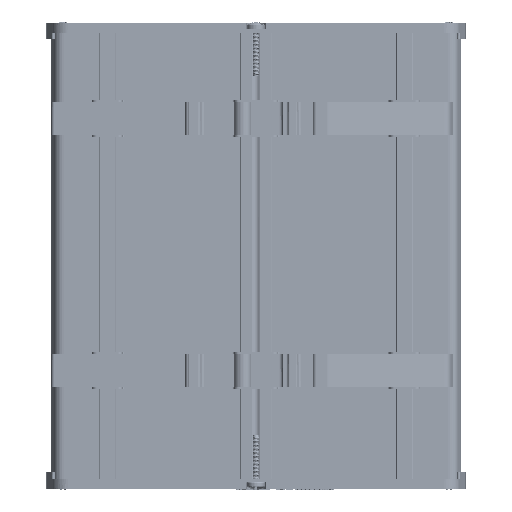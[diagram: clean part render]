
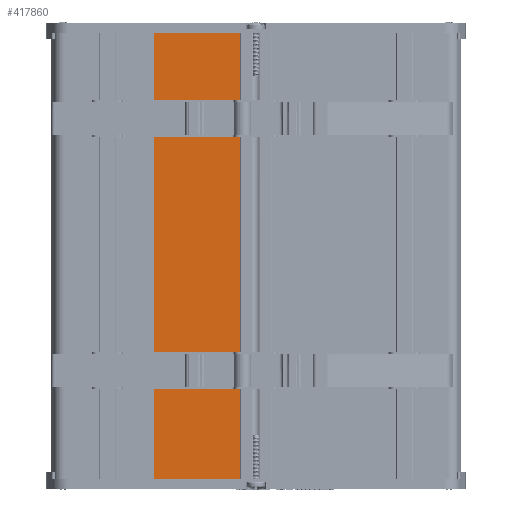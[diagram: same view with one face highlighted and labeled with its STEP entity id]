
A CAD part, front view. The second image highlights one B-rep face of the part: STEP entity #417860.
In plain terms, the highlighted planar face has unit normal (0, -1, 0).
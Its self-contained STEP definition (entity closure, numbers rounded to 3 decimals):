
#65410 = CARTESIAN_POINT ( 'NONE',  ( -10.348, 19.5, 3. ) ) ;
#66684 = CARTESIAN_POINT ( 'NONE',  ( -29.548, 19.5, 3. ) ) ;
#71625 = CARTESIAN_POINT ( 'NONE',  ( -8.852, 19.5, 136.5 ) ) ;
#71684 = CARTESIAN_POINT ( 'NONE',  ( -28.052, 19.5, 136.5 ) ) ;
#315774 = CARTESIAN_POINT ( 'NONE',  ( -29.548, 19.5, 136.5 ) ) ;
#315776 = DIRECTION ( 'NONE',  ( 1., 0., 0. ) ) ;
#315777 = VECTOR ( 'NONE', #315776, 1000. ) ;
#315779 = CARTESIAN_POINT ( 'NONE',  ( -30.493, 19.5, 136.5 ) ) ;
#315780 = LINE ( 'NONE', #315779, #315777 ) ;
#315801 = CARTESIAN_POINT ( 'NONE',  ( -30.493, 19.5, 136.5 ) ) ;
#315893 = CARTESIAN_POINT ( 'NONE',  ( -10.348, 19.5, 136.5 ) ) ;
#315911 = DIRECTION ( 'NONE',  ( 1., 0., 0. ) ) ;
#315913 = VECTOR ( 'NONE', #315911, 1000. ) ;
#315915 = CARTESIAN_POINT ( 'NONE',  ( -30.493, 19.5, 136.5 ) ) ;
#315929 = LINE ( 'NONE', #315915, #315913 ) ;
#316090 = CARTESIAN_POINT ( 'NONE',  ( -3.3, 19.5, 136.5 ) ) ;
#316093 = DIRECTION ( 'NONE',  ( 1., 0., 0. ) ) ;
#316095 = VECTOR ( 'NONE', #316093, 1000. ) ;
#316097 = CARTESIAN_POINT ( 'NONE',  ( -30.493, 19.5, 136.5 ) ) ;
#316111 = LINE ( 'NONE', #316097, #316095 ) ;
#360280 = VERTEX_POINT ( 'NONE', #315801 ) ;
#360294 = EDGE_CURVE ( 'NONE', #360280, #360302, #315780, .T. ) ;
#360302 = VERTEX_POINT ( 'NONE', #315774 ) ;
#360355 = EDGE_CURVE ( 'NONE', #454589, #360361, #315929, .T. ) ;
#360361 = VERTEX_POINT ( 'NONE', #315893 ) ;
#360506 = EDGE_CURVE ( 'NONE', #454514, #360518, #316111, .T. ) ;
#360518 = VERTEX_POINT ( 'NONE', #316090 ) ;
#395066 = VERTEX_POINT ( 'NONE', #440888 ) ;
#395333 = EDGE_CURVE ( 'NONE', #395338, #452365, #441767, .T. ) ;
#395338 = VERTEX_POINT ( 'NONE', #441753 ) ;
#395400 = EDGE_CURVE ( 'NONE', #395066, #452915, #442168, .T. ) ;
#395787 = EDGE_CURVE ( 'NONE', #396120, #396191, #443590, .T. ) ;
#396120 = VERTEX_POINT ( 'NONE', #444932 ) ;
#396191 = VERTEX_POINT ( 'NONE', #445043 ) ;
#417860 = ADVANCED_FACE ( 'NONE', ( #485783 ), #485776, .T. ) ;
#417870 = EDGE_LOOP ( 'NONE', ( #417877, #417881, #417901, #417902, #418047, #418060, #418079, #418087, #418105, #418114, #418299, #418312 ) ) ;
#417877 = ORIENTED_EDGE ( 'NONE', *, *, #360294, .F. ) ;
#417881 = ORIENTED_EDGE ( 'NONE', *, *, #417895, .T. ) ;
#417895 = EDGE_CURVE ( 'NONE', #360280, #395066, #485745, .T. ) ;
#417901 = ORIENTED_EDGE ( 'NONE', *, *, #395400, .T. ) ;
#417902 = ORIENTED_EDGE ( 'NONE', *, *, #418042, .F. ) ;
#418042 = EDGE_CURVE ( 'NONE', #395338, #452915, #486017, .T. ) ;
#418047 = ORIENTED_EDGE ( 'NONE', *, *, #395333, .T. ) ;
#418060 = ORIENTED_EDGE ( 'NONE', *, *, #418072, .F. ) ;
#418072 = EDGE_CURVE ( 'NONE', #396191, #452365, #485996, .T. ) ;
#418079 = ORIENTED_EDGE ( 'NONE', *, *, #395787, .F. ) ;
#418087 = ORIENTED_EDGE ( 'NONE', *, *, #418097, .T. ) ;
#418097 = EDGE_CURVE ( 'NONE', #396120, #360518, #485949, .T. ) ;
#418105 = ORIENTED_EDGE ( 'NONE', *, *, #360506, .F. ) ;
#418114 = ORIENTED_EDGE ( 'NONE', *, *, #418122, .F. ) ;
#418122 = EDGE_CURVE ( 'NONE', #360361, #454514, #486142, .T. ) ;
#418299 = ORIENTED_EDGE ( 'NONE', *, *, #360355, .F. ) ;
#418312 = ORIENTED_EDGE ( 'NONE', *, *, #418318, .F. ) ;
#418318 = EDGE_CURVE ( 'NONE', #360302, #454589, #486400, .T. ) ;
#440888 = CARTESIAN_POINT ( 'NONE',  ( -30.493, 19.5, 3. ) ) ;
#441753 = CARTESIAN_POINT ( 'NONE',  ( -28.052, 19.5, 3. ) ) ;
#441757 = DIRECTION ( 'NONE',  ( 1., 0., 0. ) ) ;
#441760 = VECTOR ( 'NONE', #441757, 1000. ) ;
#441763 = CARTESIAN_POINT ( 'NONE',  ( -30.493, 19.5, 3. ) ) ;
#441767 = LINE ( 'NONE', #441763, #441760 ) ;
#442154 = DIRECTION ( 'NONE',  ( 1., 0., 0. ) ) ;
#442157 = VECTOR ( 'NONE', #442154, 1000. ) ;
#442161 = CARTESIAN_POINT ( 'NONE',  ( -30.493, 19.5, 3. ) ) ;
#442168 = LINE ( 'NONE', #442161, #442157 ) ;
#443584 = VECTOR ( 'NONE', #443882, 1000. ) ;
#443588 = CARTESIAN_POINT ( 'NONE',  ( 61.3, 19.5, 3. ) ) ;
#443590 = LINE ( 'NONE', #443588, #443584 ) ;
#443882 = DIRECTION ( 'NONE',  ( -1., 0., 0. ) ) ;
#444932 = CARTESIAN_POINT ( 'NONE',  ( -3.3, 19.5, 3. ) ) ;
#445043 = CARTESIAN_POINT ( 'NONE',  ( -8.852, 19.5, 3. ) ) ;
#452365 = VERTEX_POINT ( 'NONE', #65410 ) ;
#452915 = VERTEX_POINT ( 'NONE', #66684 ) ;
#454514 = VERTEX_POINT ( 'NONE', #71625 ) ;
#454589 = VERTEX_POINT ( 'NONE', #71684 ) ;
#485712 = DIRECTION ( 'NONE',  ( 0., 0., -1. ) ) ;
#485714 = VECTOR ( 'NONE', #485712, 1000. ) ;
#485717 = CARTESIAN_POINT ( 'NONE',  ( -30.493, 19.5, 81.25 ) ) ;
#485745 = LINE ( 'NONE', #485717, #485714 ) ;
#485771 = DIRECTION ( 'NONE',  ( 1., 0., 0. ) ) ;
#485772 = DIRECTION ( 'NONE',  ( 0., -1., 0. ) ) ;
#485773 = CARTESIAN_POINT ( 'NONE',  ( -30.493, 19.5, 3. ) ) ;
#485774 = AXIS2_PLACEMENT_3D ( 'NONE', #485773, #485772, #485771 ) ;
#485776 = PLANE ( 'NONE',  #485774 ) ;
#485783 = FACE_OUTER_BOUND ( 'NONE', #417870, .T. ) ;
#485936 = DIRECTION ( 'NONE',  ( 0., 0., 1. ) ) ;
#485939 = VECTOR ( 'NONE', #485936, 1000. ) ;
#485944 = CARTESIAN_POINT ( 'NONE',  ( -3.3, 19.5, 3. ) ) ;
#485949 = LINE ( 'NONE', #485944, #485939 ) ;
#485973 = DIRECTION ( 'NONE',  ( -1., 0., 0. ) ) ;
#485975 = VECTOR ( 'NONE', #485973, 1000. ) ;
#485979 = CARTESIAN_POINT ( 'NONE',  ( 61.3, 19.5, 3. ) ) ;
#485996 = LINE ( 'NONE', #485979, #485975 ) ;
#486011 = DIRECTION ( 'NONE',  ( -1., 0., 0. ) ) ;
#486013 = VECTOR ( 'NONE', #486011, 1000. ) ;
#486015 = CARTESIAN_POINT ( 'NONE',  ( 61.3, 19.5, 3. ) ) ;
#486017 = LINE ( 'NONE', #486015, #486013 ) ;
#486138 = DIRECTION ( 'NONE',  ( 1., 0., 0. ) ) ;
#486140 = VECTOR ( 'NONE', #486138, 1000. ) ;
#486141 = CARTESIAN_POINT ( 'NONE',  ( -30.493, 19.5, 136.5 ) ) ;
#486142 = LINE ( 'NONE', #486141, #486140 ) ;
#486383 = DIRECTION ( 'NONE',  ( 1., 0., 0. ) ) ;
#486384 = VECTOR ( 'NONE', #486383, 1000. ) ;
#486385 = CARTESIAN_POINT ( 'NONE',  ( -30.493, 19.5, 136.5 ) ) ;
#486400 = LINE ( 'NONE', #486385, #486384 ) ;
